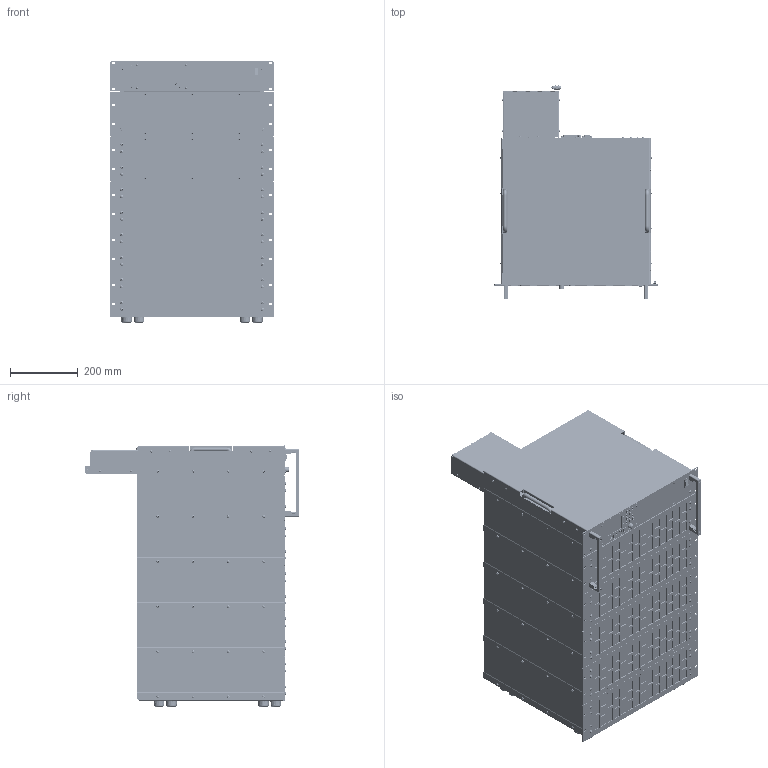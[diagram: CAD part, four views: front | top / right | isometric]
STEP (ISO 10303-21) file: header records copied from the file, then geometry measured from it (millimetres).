
FILE_DESCRIPTION(('STEP AP214'),'1');
FILE_NAME('PLI_M35_19Z_17HE_FKS25_10_SM10_BRB_3D_01.step','2019-03-11T14:03:59',(' '),(' '),'Spatial InterOp 3D',' ',' ');
FILE_SCHEMA(('AUTOMOTIVE_DESIGN { 1 0 10303 214 1 1 1 1 }'));
Length unit declared in the file: millimetre
Products named in the file (1): 1
Bounding box: 482.6 x 631.75 x 772.78 mm (x, y, z)
Volume: 48446134.3 mm3; surface area: 8296810.5 mm2
Topology: 376 solids, 2396 shells, 25671 faces, 72428 edges, 49489 vertices
Faces by surface type: plane 13790, cone 6960, cylinder 4191, sphere 398, torus 304, bspline 26, extrusion 2
Entity records: 1063760 total; most frequent: CARTESIAN_POINT 155259, DIRECTION 152549, ORIENTED_EDGE 130452, EDGE_CURVE 71486, AXIS2_PLACEMENT_3D 52734, VERTEX_POINT 48340, VECTOR 47081, LINE 47079
